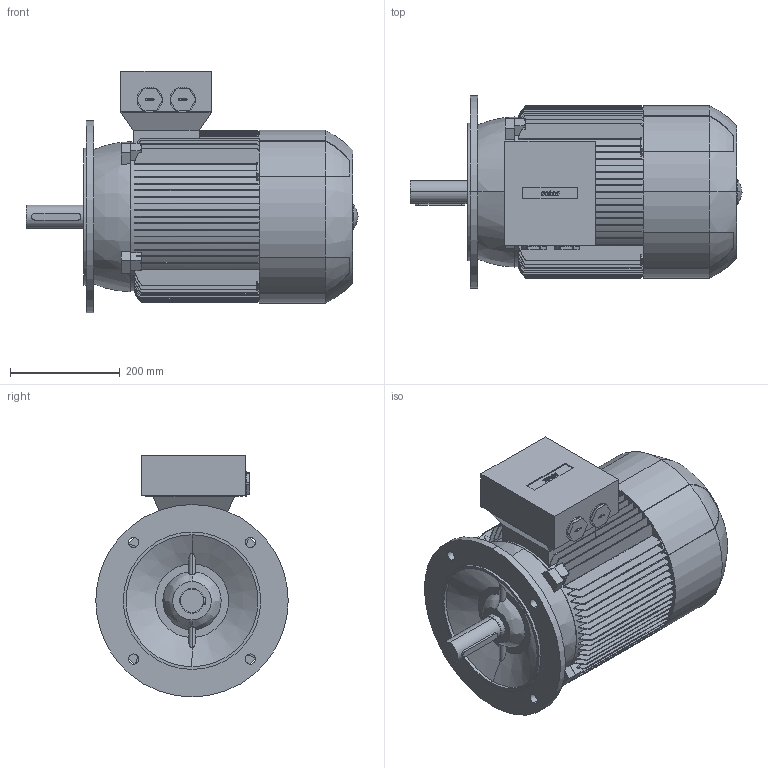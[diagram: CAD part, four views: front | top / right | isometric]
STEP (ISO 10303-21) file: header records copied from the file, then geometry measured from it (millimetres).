
FILE_DESCRIPTION (( 'STEP AP214' ), '1' );
FILE_NAME ('6RN160L04E24 IM3001.STEP', '2014-09-15T11:18:05', ( 'rbc_ict' ), ( 'REGAL' ), 'SwSTEP 2.0', 'SolidWorks 2012', '' );
FILE_SCHEMA (( 'AUTOMOTIVE_DESIGN' ));
Length unit declared in the file: millimetre
Products named in the file (1): 6RN160L04E24 IM3001
Bounding box: 604 x 350 x 440 mm (x, y, z)
Volume: 34250460.7 mm3; surface area: 1415389.3 mm2
Topology: 1 solids, 1 shells, 744 faces, 2166 edges, 1433 vertices
Faces by surface type: plane 405, bspline 190, cylinder 143, cone 6
Entity records: 30291 total; most frequent: CARTESIAN_POINT 12000, ORIENTED_EDGE 4328, DIRECTION 3137, EDGE_CURVE 2164, VERTEX_POINT 1433, LINE 1141, VECTOR 1141, AXIS2_PLACEMENT_3D 998
